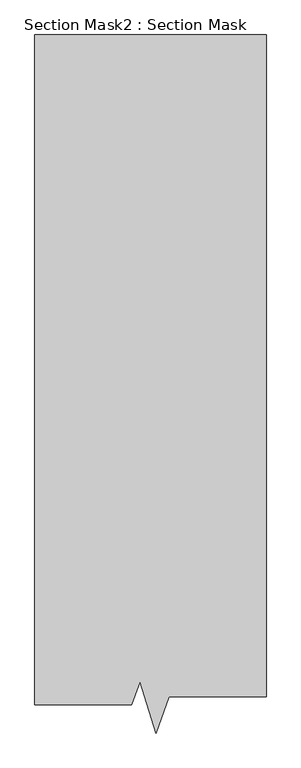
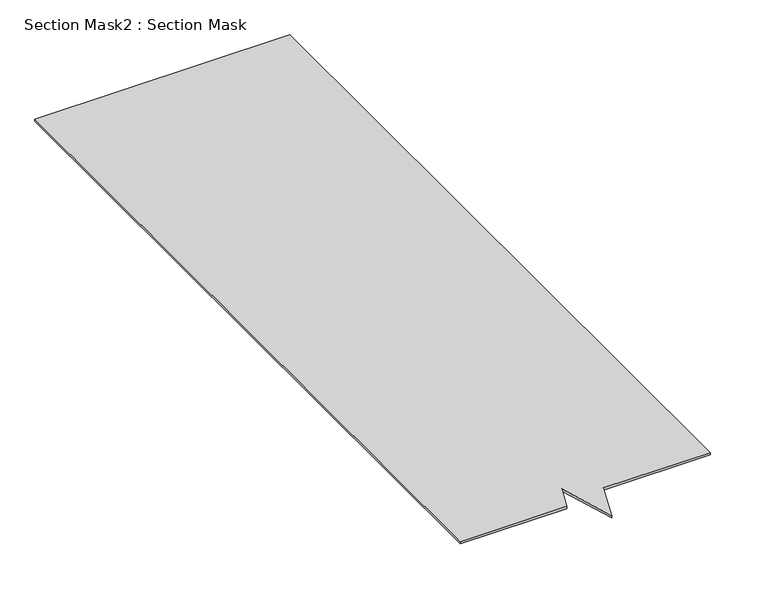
"""IFC4 building model written with IfcOpenShell, lengths in millimetres: proxy geometry, Section Mask2 : Section Mask."""

import ifcopenshell
import ifcopenshell.guid

model = None  # the IFC model being written
_history = None  # IfcOwnerHistory: only IFC2X3 demands one
_inside = {}  # id of a spatial element -> (the spatial element, [elements in it])
_under = {}  # id of a project, library or spatial element -> (it, [spatial elements below it])
_declared = {}  # id of a project -> (the project, [libraries it declares])
_typed = {}  # id of a type object -> (the type object, [elements of that type])
_made_of = {}  # id of a material, layer set ... -> (it, [elements and type objects made of it])


def new_model(schema):
    """Start an empty IFC model of exactly this schema.

    Asked for "IFC4X3", IfcOpenShell would pick the latest addendum, in which some entities
    have other attributes; the version numbers below select the first issue.
    IFC2X3 requires an IfcOwnerHistory on every rooted entity: one is made here for all.
    """
    global model, _history
    if schema == "IFC4X3":
        model = ifcopenshell.file(schema_version=(4, 3, 0, 0))
    else:
        model = ifcopenshell.file(schema=schema)
    _inside.clear()
    _under.clear()
    _declared.clear()
    _typed.clear()
    _made_of.clear()
    _history = None
    if model.schema == "IFC2X3":
        org = make("IfcOrganization", Name="unknown")
        user = make(
            "IfcPersonAndOrganization",
            ThePerson=make("IfcPerson", FamilyName="unknown"),
            TheOrganization=org,
        )
        app = make(
            "IfcApplication",
            ApplicationDeveloper=org,
            Version="unknown",
            ApplicationFullName="unknown",
            ApplicationIdentifier="unknown",
        )
        _history = make(
            "IfcOwnerHistory",
            OwningUser=user,
            OwningApplication=app,
            ChangeAction="ADDED",
            CreationDate=0,
        )
    return model


def make(cls, **values):
    """One entity of the class cls with the attributes given. An attribute that is None is left unset."""
    return model.create_entity(
        cls, **{name: value for name, value in values.items() if value is not None}
    )


def rooted(cls, **values):
    """An entity with a GlobalId (a new one), such as an element, a storey or a relation."""
    return make(cls, GlobalId=ifcopenshell.guid.new(), OwnerHistory=_history, **values)


def si_unit(unit_type, name, prefix=None):
    """IfcSIUnit, for example si_unit("LENGTHUNIT", "METRE", prefix="MILLI")."""
    return make("IfcSIUnit", UnitType=unit_type, Prefix=prefix, Name=name)


def assignment(units):
    """IfcUnitAssignment: the units of a project."""
    return None if units is None else make("IfcUnitAssignment", Units=units)


def point(xyz):
    """IfcCartesianPoint."""
    return None if xyz is None else make("IfcCartesianPoint", Coordinates=xyz)


def direction(xyz):
    """IfcDirection."""
    return None if xyz is None else make("IfcDirection", DirectionRatios=xyz)


def frame(location, z_axis=None, x_axis=None):
    """IfcAxis2Placement3D, a coordinate frame: its origin and axes. An axis left out is left unset."""
    return make(
        "IfcAxis2Placement3D",
        Location=point(location),
        Axis=direction(z_axis),
        RefDirection=direction(x_axis),
    )


def origin():
    """The frame at (0, 0, 0) with its axes left unset."""
    return frame((0.0, 0.0, 0.0))


def place(relative_to, where):
    """IfcLocalPlacement: puts the frame where relative to a parent placement (None: the world)."""
    return make(
        "IfcLocalPlacement", PlacementRelTo=relative_to, RelativePlacement=where
    )


def context(
    kind, dimensions, precision=None, world=None, true_north=None, identifier=None
):
    """IfcGeometricRepresentationContext, for example the 3D "Model" context."""
    return make(
        "IfcGeometricRepresentationContext",
        ContextIdentifier=identifier,
        ContextType=kind,
        CoordinateSpaceDimension=dimensions,
        Precision=precision,
        WorldCoordinateSystem=world,
        TrueNorth=true_north,
    )


def project(units=None, contexts=None):
    """IfcProject with its units and contexts."""
    return rooted(
        "IfcProject",
        Name="project",
        RepresentationContexts=contexts,
        UnitsInContext=assignment(units),
    )


def spatial(cls, under=None, at=None, **own):
    """A site, building, storey or space (cls), placed at a placement, below another one or the project."""
    s = rooted(cls, ObjectPlacement=at, **own)
    if under is not None:
        _under.setdefault(under.id(), (under, []))[1].append(s)
    return s


def polyline(points):
    """IfcPolyline through the points."""
    return make("IfcPolyline", Points=[point(p) for p in points])


def outline(outer, holes=None, kind="AREA"):
    """IfcArbitraryClosedProfileDef: a profile drawn as a closed curve; with holes, ...WithVoids."""
    if holes is None:
        return make("IfcArbitraryClosedProfileDef", ProfileType=kind, OuterCurve=outer)
    return make(
        "IfcArbitraryProfileDefWithVoids",
        ProfileType=kind,
        OuterCurve=outer,
        InnerCurves=holes,
    )


def extrude(swept, where, along, depth):
    """IfcExtrudedAreaSolid: the profile swept, set in the frame where, extruded along a direction by depth."""
    return make(
        "IfcExtrudedAreaSolid",
        SweptArea=swept,
        Position=where,
        ExtrudedDirection=direction(along),
        Depth=depth,
    )


def shape(context_of_items, identifier, shape_type, items):
    """IfcShapeRepresentation: the items that make up one representation, for example the "Body"."""
    return make(
        "IfcShapeRepresentation",
        ContextOfItems=context_of_items,
        RepresentationIdentifier=identifier,
        RepresentationType=shape_type,
        Items=items,
    )


def source(mapping_origin, context_of_items, identifier, shape_type, items):
    """IfcRepresentationMap: a shape defined once, which mapped items show again and again."""
    return make(
        "IfcRepresentationMap",
        MappingOrigin=mapping_origin,
        MappedRepresentation=shape(context_of_items, identifier, shape_type, items),
    )


def transform(
    local_origin,
    x_axis=None,
    y_axis=None,
    z_axis=None,
    scale=None,
    scale2=None,
    scale3=None,
    uniform=True,
):
    """IfcCartesianTransformationOperator3D, or its non-uniform kind. x_axis, y_axis, z_axis: its Axis1, 2, 3."""
    if uniform:
        return make(
            "IfcCartesianTransformationOperator3D",
            Axis1=direction(x_axis),
            Axis2=direction(y_axis),
            LocalOrigin=point(local_origin),
            Scale=scale,
            Axis3=direction(z_axis),
        )
    return make(
        "IfcCartesianTransformationOperator3DnonUniform",
        Axis1=direction(x_axis),
        Axis2=direction(y_axis),
        LocalOrigin=point(local_origin),
        Scale=scale,
        Axis3=direction(z_axis),
        Scale2=scale2,
        Scale3=scale3,
    )


def mapped(mapping_source, mapping_target):
    """IfcMappedItem: shows the shape of a source again, moved by a transform."""
    return make(
        "IfcMappedItem", MappingSource=mapping_source, MappingTarget=mapping_target
    )


def made_of(thing, what):
    """Note that an element or type object is made of a material, layer set ...; save() writes the relation."""
    if what is not None:
        _made_of.setdefault(what.id(), (what, []))[1].append(thing)
    return thing


def element(
    cls,
    number,
    at=None,
    inside=None,
    cuts=None,
    type_object=None,
    material=None,
    context=None,
    identifier="Body",
    shape_type=None,
    held_by="IfcProductDefinitionShape",
    body=None,
    shapes=None,
    **own,
):
    """One element of the class cls, such as IfcWall. Its Tag is "e" and its number.

    at: its placement. inside: the storey or other place that contains it. cuts: it is an
    opening in that element (IfcRelVoidsElement). A single representation is given by context,
    identifier, shape_type and body (its items); several are given by shapes. held_by: the class
    of the entity that holds the representations. save() writes the other relations.
    """
    e = rooted(cls, Tag="e%d" % number, ObjectPlacement=at, **own)
    if body is not None:
        shapes = [shape(context, identifier, shape_type, body)]
    if shapes is not None:
        e.Representation = make(held_by, Representations=shapes)
    if inside is not None:
        _inside.setdefault(inside.id(), (inside, []))[1].append(e)
    if cuts is not None:
        rooted(
            "IfcRelVoidsElement", RelatingBuildingElement=cuts, RelatedOpeningElement=e
        )
    if type_object is not None:
        _typed.setdefault(type_object.id(), (type_object, []))[1].append(e)
    return made_of(e, material)


def aggregate(whole, parts):
    """IfcRelAggregates: a whole, such as a stair, and the parts it consists of."""
    return rooted("IfcRelAggregates", RelatingObject=whole, RelatedObjects=parts)


def save(model, path):
    """Write the relations noted so far, then the file.

    IfcRelAggregates (storeys below a building ...), IfcRelContainedInSpatialStructure (elements
    in a storey), IfcRelDefinesByType, IfcRelAssociatesMaterial and IfcRelDeclares: one each for
    every whole, place, type object, material and project.
    """
    for whole, parts in _under.values():
        aggregate(whole, parts)
    for where, things in _inside.values():
        rooted(
            "IfcRelContainedInSpatialStructure",
            RelatedElements=things,
            RelatingStructure=where,
        )
    for kind, things in _typed.values():
        rooted("IfcRelDefinesByType", RelatedObjects=things, RelatingType=kind)
    for what, things in _made_of.values():
        rooted("IfcRelAssociatesMaterial", RelatedObjects=things, RelatingMaterial=what)
    for by, libraries in _declared.values():
        rooted("IfcRelDeclares", RelatingContext=by, RelatedDefinitions=libraries)
    model.write(path)


def section_mask2_section_mask_aa1896d1(model_context):
    return source(origin(), model_context, "Body", "SweptSolid", [
        extrude(outline(polyline([(8429.464325, 631.273934), (8163.5070421, 631.273934), (8163.5070421, 2465.4614947), (8798.01713, 2465.4614947), (8798.01713, 652.1224056), (8532.0982256, 652.1224056), (8495.4813689, 552.9595639), (8452.4812645, 693.6065681), (8429.464325, 631.273934)])), frame((0.0, 0.0, 45.0273345), z_axis=(0.0, 0.0, 1.0), x_axis=(1.0, 0.0, 0.0)), (0.0, 0.0, 1.0), 5.6926241),
    ])


if __name__ == "__main__":
    model = new_model("IFC4")
    model_context = context("Model", 3, world=origin())
    ifc_project = project(units=[si_unit("LENGTHUNIT", "METRE", prefix="MILLI")], contexts=[model_context])
    site = spatial("IfcSite", under=ifc_project)
    building = spatial("IfcBuilding", under=site)
    placement = place(None, origin())
    section_mask2_section_mask_shape = section_mask2_section_mask_aa1896d1(model_context)
    element("IfcBuildingElementProxy", 1, Name="Section Mask2 : Section Mask", ObjectType="Section Mask2 : Section Mask", at=placement, inside=building, context=model_context, shape_type="MappedRepresentation", body=[
        mapped(section_mask2_section_mask_shape, transform((0.0, 0.0, 0.0), x_axis=(1.0, 0.0, 0.0), y_axis=(0.0, 1.0, 0.0), z_axis=(0.0, 0.0, 1.0))),
    ])
    save(model, "model.ifc")
